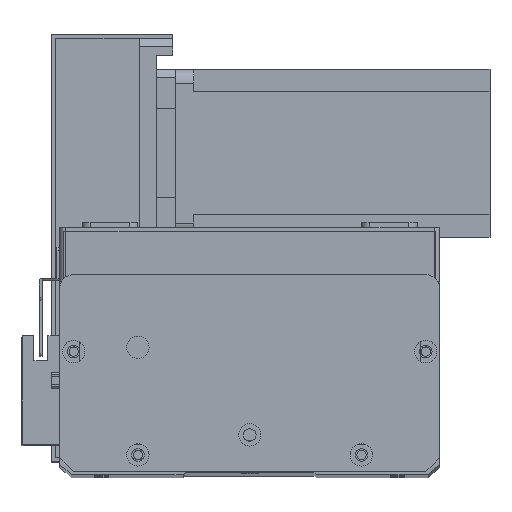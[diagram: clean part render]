
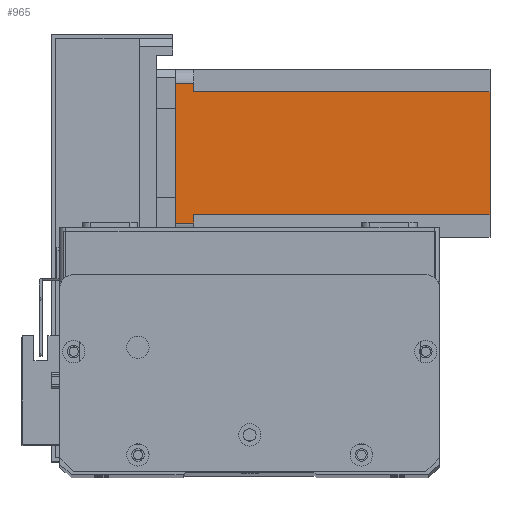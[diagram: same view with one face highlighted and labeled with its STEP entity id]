
A CAD part, top view. The second image highlights one B-rep face of the part: STEP entity #965.
In plain terms, the highlighted planar face has unit normal (0, 0, 1) as drawn and (0, -1, 0) by its records, which use the part's own axes.
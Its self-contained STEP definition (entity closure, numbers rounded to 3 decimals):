
#36 = CARTESIAN_POINT ( 'NONE',  ( 0., 0., 0. ) ) ;
#52 = VERTEX_POINT ( 'NONE', #5136 ) ;
#169 = DIRECTION ( 'NONE',  ( 0., 0., 1. ) ) ;
#264 = DIRECTION ( 'NONE',  ( 0., 0., 1. ) ) ;
#593 = VECTOR ( 'NONE', #264, 1000. ) ;
#965 = ADVANCED_FACE ( 'NONE', ( #13737 ), #9588, .T. ) ;
#1740 = CARTESIAN_POINT ( 'NONE',  ( 0., 0., -112.5 ) ) ;
#2385 = CARTESIAN_POINT ( 'NONE',  ( 8., 0., -112.5 ) ) ;
#2621 = EDGE_CURVE ( 'NONE', #26987, #7817, #25810, .T. ) ;
#2793 = DIRECTION ( 'NONE',  ( 0., -1., 0. ) ) ;
#2907 = VERTEX_POINT ( 'NONE', #21131 ) ;
#3464 = VERTEX_POINT ( 'NONE', #13951 ) ;
#4515 = EDGE_CURVE ( 'NONE', #52, #6580, #7227, .T. ) ;
#4923 = EDGE_CURVE ( 'NONE', #52, #7750, #19048, .T. ) ;
#5136 = CARTESIAN_POINT ( 'NONE',  ( 52., 0., -6.5 ) ) ;
#5276 = EDGE_CURVE ( 'NONE', #24022, #7817, #28415, .T. ) ;
#5298 = ORIENTED_EDGE ( 'NONE', *, *, #4515, .T. ) ;
#6327 = CARTESIAN_POINT ( 'NONE',  ( 8., 0., -6.5 ) ) ;
#6489 = LINE ( 'NONE', #9088, #593 ) ;
#6580 = VERTEX_POINT ( 'NONE', #28133 ) ;
#7227 = LINE ( 'NONE', #23741, #23592 ) ;
#7565 = VECTOR ( 'NONE', #22320, 1000. ) ;
#7750 = VERTEX_POINT ( 'NONE', #9805 ) ;
#7817 = VERTEX_POINT ( 'NONE', #16604 ) ;
#8489 = ORIENTED_EDGE ( 'NONE', *, *, #13433, .F. ) ;
#8563 = DIRECTION ( 'NONE',  ( -1., 0., 0. ) ) ;
#9088 = CARTESIAN_POINT ( 'NONE',  ( 55., 0., -112.5 ) ) ;
#9588 = PLANE ( 'NONE',  #13465 ) ;
#9805 = CARTESIAN_POINT ( 'NONE',  ( 52., 0., -112.5 ) ) ;
#10940 = ORIENTED_EDGE ( 'NONE', *, *, #22666, .T. ) ;
#10998 = CARTESIAN_POINT ( 'NONE',  ( 52., 0., -112.5 ) ) ;
#11337 = LINE ( 'NONE', #2385, #22505 ) ;
#12236 = DIRECTION ( 'NONE',  ( 0., 0., -1. ) ) ;
#12629 = ORIENTED_EDGE ( 'NONE', *, *, #4923, .F. ) ;
#13123 = VECTOR ( 'NONE', #28795, 1000. ) ;
#13433 = EDGE_CURVE ( 'NONE', #24022, #2907, #24646, .T. ) ;
#13465 = AXIS2_PLACEMENT_3D ( 'NONE', #20524, #2793, #18344 ) ;
#13737 = FACE_OUTER_BOUND ( 'NONE', #16957, .T. ) ;
#13951 = CARTESIAN_POINT ( 'NONE',  ( 8., 0., -112.5 ) ) ;
#14475 = CARTESIAN_POINT ( 'NONE',  ( 5., 0., -112.5 ) ) ;
#14657 = EDGE_CURVE ( 'NONE', #3464, #26987, #11337, .T. ) ;
#15461 = ORIENTED_EDGE ( 'NONE', *, *, #5276, .T. ) ;
#15799 = ORIENTED_EDGE ( 'NONE', *, *, #2621, .F. ) ;
#16604 = CARTESIAN_POINT ( 'NONE',  ( 5., 0., -6.5 ) ) ;
#16661 = ORIENTED_EDGE ( 'NONE', *, *, #21889, .T. ) ;
#16957 = EDGE_LOOP ( 'NONE', ( #5298, #16661, #8489, #15461, #15799, #25314, #10940, #12629 ) ) ;
#17295 = DIRECTION ( 'NONE',  ( 1., 0., 0. ) ) ;
#17801 = CARTESIAN_POINT ( 'NONE',  ( 5., 0., 0. ) ) ;
#18344 = DIRECTION ( 'NONE',  ( 0., 0., -1. ) ) ;
#19048 = LINE ( 'NONE', #10998, #13123 ) ;
#20524 = CARTESIAN_POINT ( 'NONE',  ( 0., 0., -112.5 ) ) ;
#20633 = VECTOR ( 'NONE', #8563, 1000. ) ;
#21131 = CARTESIAN_POINT ( 'NONE',  ( 55., 0., 0. ) ) ;
#21889 = EDGE_CURVE ( 'NONE', #6580, #2907, #6489, .T. ) ;
#22320 = DIRECTION ( 'NONE',  ( 1., 0., 0. ) ) ;
#22505 = VECTOR ( 'NONE', #169, 1000. ) ;
#22666 = EDGE_CURVE ( 'NONE', #3464, #7750, #28377, .T. ) ;
#23187 = VECTOR ( 'NONE', #17295, 1000. ) ;
#23592 = VECTOR ( 'NONE', #23837, 1000. ) ;
#23741 = CARTESIAN_POINT ( 'NONE',  ( 52., 0., -6.5 ) ) ;
#23837 = DIRECTION ( 'NONE',  ( 1., 0., 0. ) ) ;
#24022 = VERTEX_POINT ( 'NONE', #17801 ) ;
#24560 = CARTESIAN_POINT ( 'NONE',  ( 8., 0., -6.5 ) ) ;
#24646 = LINE ( 'NONE', #36, #7565 ) ;
#25314 = ORIENTED_EDGE ( 'NONE', *, *, #14657, .F. ) ;
#25810 = LINE ( 'NONE', #6327, #20633 ) ;
#26987 = VERTEX_POINT ( 'NONE', #24560 ) ;
#27730 = VECTOR ( 'NONE', #12236, 1000. ) ;
#28133 = CARTESIAN_POINT ( 'NONE',  ( 55., 0., -6.5 ) ) ;
#28377 = LINE ( 'NONE', #1740, #23187 ) ;
#28415 = LINE ( 'NONE', #14475, #27730 ) ;
#28795 = DIRECTION ( 'NONE',  ( 0., 0., -1. ) ) ;
